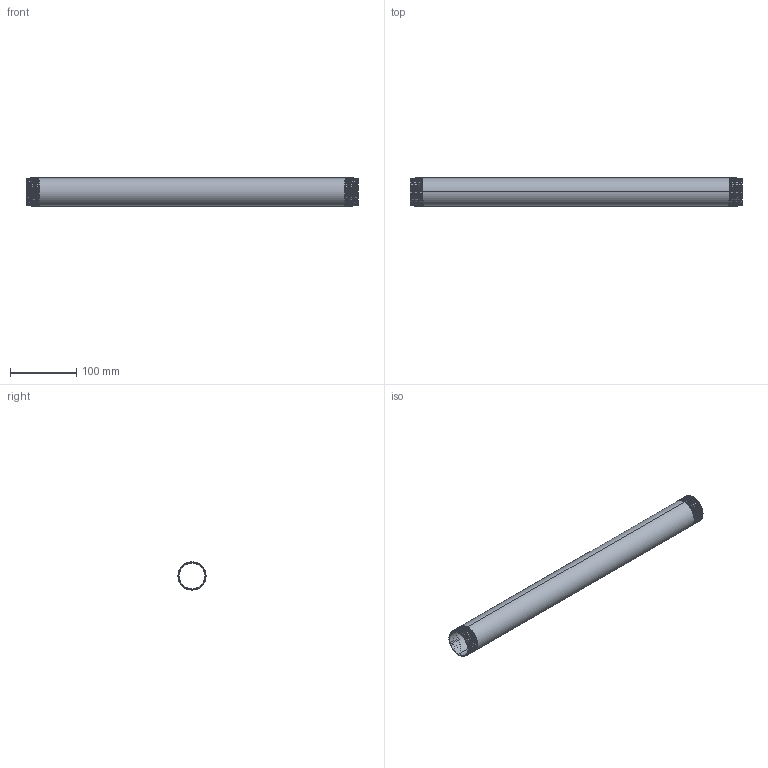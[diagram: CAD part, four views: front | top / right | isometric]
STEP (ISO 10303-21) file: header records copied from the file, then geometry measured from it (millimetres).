
FILE_DESCRIPTION (( 'STEP AP203' ), '1' );
FILE_NAME ('3D_R210_1 1-4x500_17191530.STEP', '2024-08-16T14:39:39', ( '' ), ( '' ), 'SwSTEP 2.0', 'SolidWorks 2024', '' );
FILE_SCHEMA (( 'CONFIG_CONTROL_DESIGN' ));
Length unit declared in the file: millimetre
Products named in the file (1): 3D_R210_1 1-4x500_17191530
Bounding box: 500 x 42.4 x 42.4 mm (x, y, z)
Volume: 124160 mm3; surface area: 129932.8 mm2
Topology: 1 solids, 1 shells, 82 faces, 232 edges, 152 vertices
Faces by surface type: cone 68, bspline 6, cylinder 4, plane 4
Entity records: 13957 total; most frequent: CARTESIAN_POINT 12055, ORIENTED_EDGE 464, DIRECTION 256, EDGE_CURVE 232, VERTEX_POINT 152, B_SPLINE_CURVE_WITH_KNOTS 134, AXIS2_PLACEMENT_3D 89, EDGE_LOOP 84
